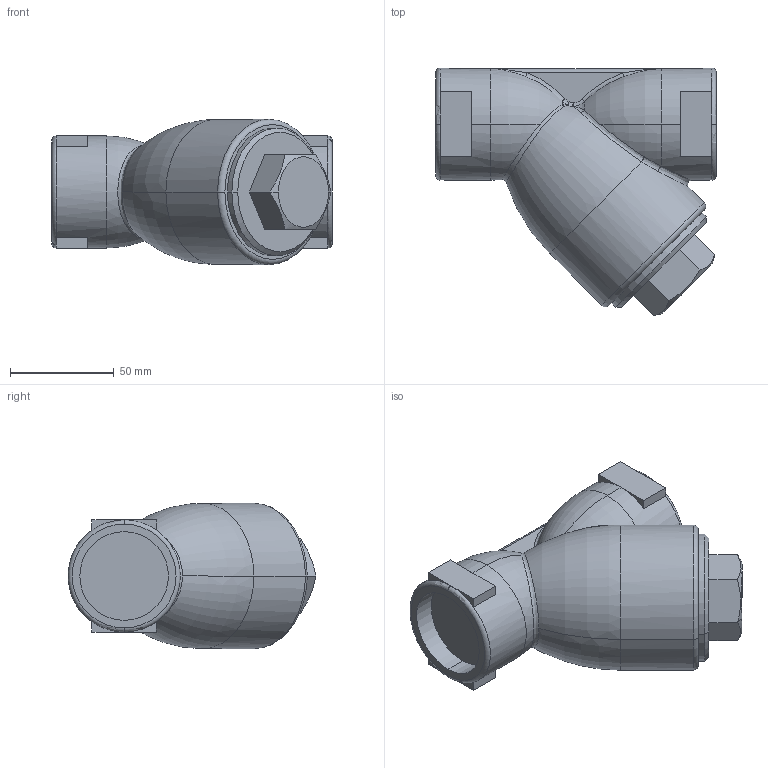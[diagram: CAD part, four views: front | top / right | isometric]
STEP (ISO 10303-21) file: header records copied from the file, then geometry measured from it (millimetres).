
FILE_DESCRIPTION (( 'STEP AP203' ), '1' );
FILE_NAME ('SY-17 32A.STEP', '2025-09-30T00:28:30', ( '' ), ( '' ), 'SwSTEP 2.0', 'SolidWorks 2024', '' );
FILE_SCHEMA (( 'CONFIG_CONTROL_DESIGN' ));
Length unit declared in the file: millimetre
Products named in the file (1): SY-17 32A
Bounding box: 135 x 119.32 x 70 mm (x, y, z)
Volume: 501290.2 mm3; surface area: 45937.8 mm2
Topology: 1 solids, 1 shells, 109 faces, 246 edges, 139 vertices
Faces by surface type: plane 43, bspline 24, torus 21, cylinder 13, sphere 4, cone 4
Entity records: 4701 total; most frequent: CARTESIAN_POINT 2381, ORIENTED_EDGE 484, DIRECTION 448, EDGE_CURVE 242, AXIS2_PLACEMENT_3D 184, VERTEX_POINT 139, EDGE_LOOP 113, FACE_OUTER_BOUND 109
